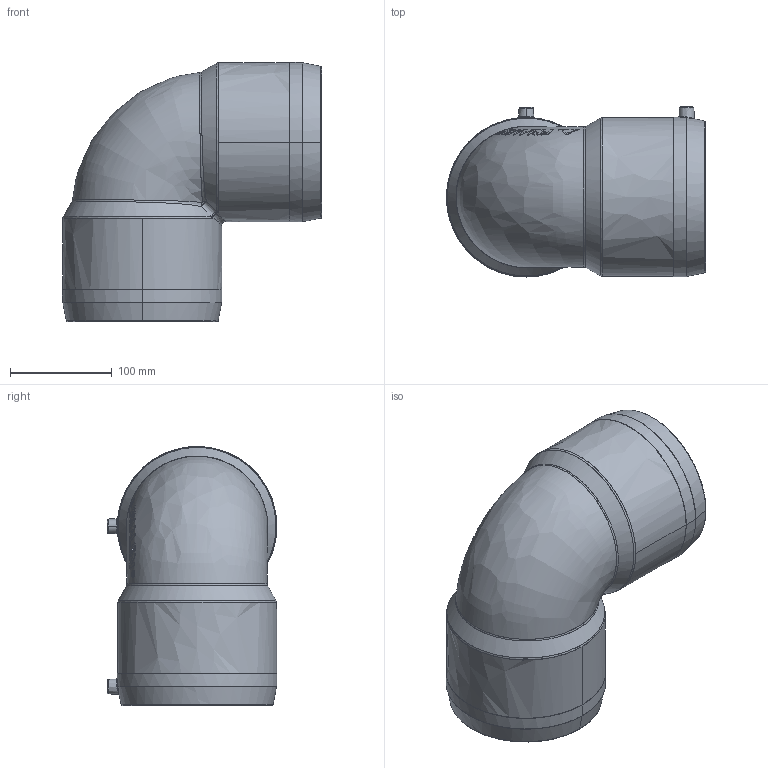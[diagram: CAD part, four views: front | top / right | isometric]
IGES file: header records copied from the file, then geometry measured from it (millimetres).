
Start section:  PTC IGES file: w90_d125_01.igs
Global section: file name: w90_d125_01.igs; native system: Pro/ENGINEER by Parametric Technology Corporation; preprocessor: 2011490; author: mtunjic; organization: Unknown; date: 20130812.092009; units: millimetre
Bounding box: 254.3 x 166.62 x 254.3 mm (x, y, z)
Surface area: 286350.7 mm2 (no closed solid volume)
Topology: 0 solids, 0 shells, 208 faces, 1054 edges, 1054 vertices
Faces by surface type: bspline 208
